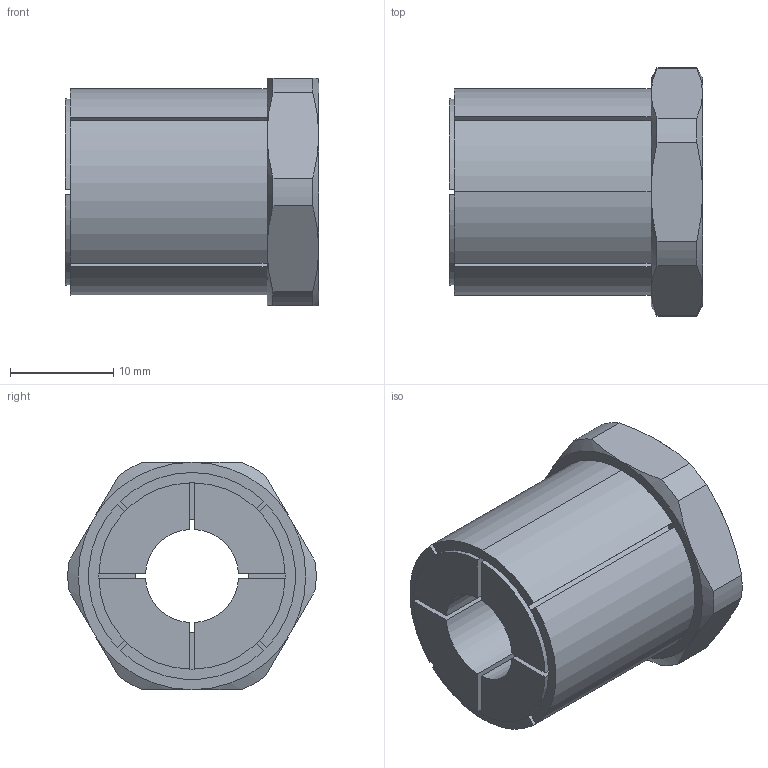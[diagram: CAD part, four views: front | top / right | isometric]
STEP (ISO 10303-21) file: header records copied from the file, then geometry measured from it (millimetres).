
FILE_DESCRIPTION (( 'STEP AP203' ), '1' );
FILE_NAME ('KBS 58 - 9 x 20.STEP', '2015-07-05T20:03:17', ( '' ), ( '' ), 'SwSTEP 2.0', 'SolidWorks 2010', '' );
FILE_SCHEMA (( 'CONFIG_CONTROL_DESIGN' ));
Length unit declared in the file: millimetre
Products named in the file (1): KBS 58 - 9 x 20
Bounding box: 24.5 x 23.98 x 22 mm (x, y, z)
Volume: 6320.6 mm3; surface area: 3967.9 mm2
Topology: 1 solids, 1 shells, 79 faces, 208 edges, 132 vertices
Faces by surface type: plane 37, cylinder 26, cone 16
Entity records: 2651 total; most frequent: CARTESIAN_POINT 612, DIRECTION 416, ORIENTED_EDGE 416, EDGE_CURVE 208, AXIS2_PLACEMENT_3D 160, VERTEX_POINT 132, LINE 96, VECTOR 96
